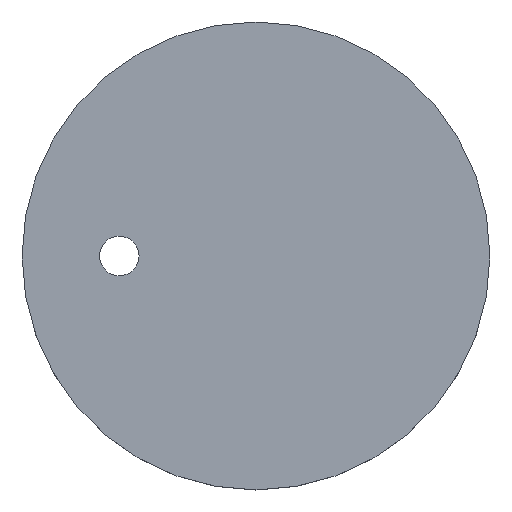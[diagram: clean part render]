
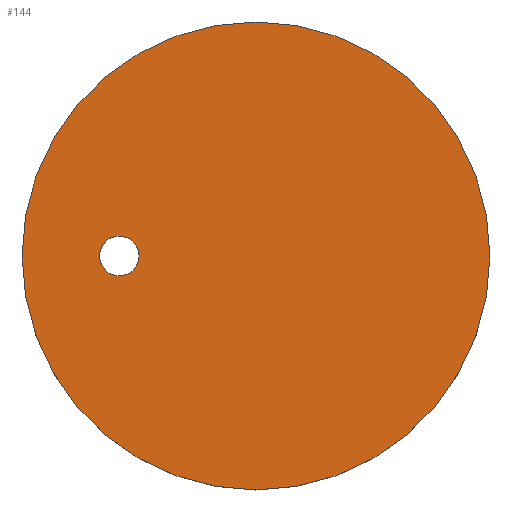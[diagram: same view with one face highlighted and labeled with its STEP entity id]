
A CAD part, top view. The second image highlights one B-rep face of the part: STEP entity #144.
In plain terms, the highlighted planar face has unit normal (0, 0, 1).
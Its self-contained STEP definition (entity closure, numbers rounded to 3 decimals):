
#24 = VERTEX_POINT('',#25);
#25 = CARTESIAN_POINT('',(6.5,0.,-2.9));
#32 = CYLINDRICAL_SURFACE('',#33,6.5);
#33 = AXIS2_PLACEMENT_3D('',#34,#35,#36);
#34 = CARTESIAN_POINT('',(0.,0.,-4.5));
#35 = DIRECTION('',(-0.,-0.,-1.));
#36 = DIRECTION('',(1.,0.,0.));
#51 = EDGE_CURVE('',#24,#24,#52,.T.);
#52 = SURFACE_CURVE('',#53,(#58,#65),.PCURVE_S1.);
#53 = CIRCLE('',#54,6.5);
#54 = AXIS2_PLACEMENT_3D('',#55,#56,#57);
#55 = CARTESIAN_POINT('',(0.,0.,-2.9));
#56 = DIRECTION('',(0.,0.,1.));
#57 = DIRECTION('',(1.,0.,0.));
#58 = PCURVE('',#32,#59);
#59 = DEFINITIONAL_REPRESENTATION('',(#60),#64);
#60 = LINE('',#61,#62);
#61 = CARTESIAN_POINT('',(-0.,-1.6));
#62 = VECTOR('',#63,1.);
#63 = DIRECTION('',(-1.,0.));
#64 = ( GEOMETRIC_REPRESENTATION_CONTEXT(2) 
PARAMETRIC_REPRESENTATION_CONTEXT() REPRESENTATION_CONTEXT('2D SPACE',''
  ) );
#65 = PCURVE('',#66,#71);
#66 = PLANE('',#67);
#67 = AXIS2_PLACEMENT_3D('',#68,#69,#70);
#68 = CARTESIAN_POINT('',(0.,0.,-2.9));
#69 = DIRECTION('',(0.,0.,1.));
#70 = DIRECTION('',(1.,0.,-0.));
#71 = DEFINITIONAL_REPRESENTATION('',(#72),#76);
#72 = CIRCLE('',#73,6.5);
#73 = AXIS2_PLACEMENT_2D('',#74,#75);
#74 = CARTESIAN_POINT('',(0.,0.));
#75 = DIRECTION('',(1.,0.));
#76 = ( GEOMETRIC_REPRESENTATION_CONTEXT(2) 
PARAMETRIC_REPRESENTATION_CONTEXT() REPRESENTATION_CONTEXT('2D SPACE',''
  ) );
#133 = CYLINDRICAL_SURFACE('',#134,0.55);
#134 = AXIS2_PLACEMENT_3D('',#135,#136,#137);
#135 = CARTESIAN_POINT('',(-3.8,0.,-5.5));
#136 = DIRECTION('',(-0.,-0.,-1.));
#137 = DIRECTION('',(1.,0.,0.));
#144 = ADVANCED_FACE('',(#145,#148),#66,.T.);
#145 = FACE_BOUND('',#146,.T.);
#146 = EDGE_LOOP('',(#147));
#147 = ORIENTED_EDGE('',*,*,#51,.T.);
#148 = FACE_BOUND('',#149,.T.);
#149 = EDGE_LOOP('',(#150));
#150 = ORIENTED_EDGE('',*,*,#151,.T.);
#151 = EDGE_CURVE('',#152,#152,#154,.T.);
#152 = VERTEX_POINT('',#153);
#153 = CARTESIAN_POINT('',(-3.25,0.,-2.9));
#154 = SURFACE_CURVE('',#155,(#160,#171),.PCURVE_S1.);
#155 = CIRCLE('',#156,0.55);
#156 = AXIS2_PLACEMENT_3D('',#157,#158,#159);
#157 = CARTESIAN_POINT('',(-3.8,0.,-2.9));
#158 = DIRECTION('',(0.,0.,-1.));
#159 = DIRECTION('',(1.,0.,0.));
#160 = PCURVE('',#66,#161);
#161 = DEFINITIONAL_REPRESENTATION('',(#162),#170);
#162 = ( BOUNDED_CURVE() B_SPLINE_CURVE(2,(#163,#164,#165,#166,#167,#168
,#169),.UNSPECIFIED.,.T.,.F.) B_SPLINE_CURVE_WITH_KNOTS((1,2,2,2,2,1),(
    -2.094,0.,2.094,4.189,6.283,
8.378),.UNSPECIFIED.) CURVE() GEOMETRIC_REPRESENTATION_ITEM() 
RATIONAL_B_SPLINE_CURVE((1.,0.5,1.,0.5,1.,0.5,1.)) REPRESENTATION_ITEM(
  '') );
#163 = CARTESIAN_POINT('',(-3.25,0.));
#164 = CARTESIAN_POINT('',(-3.25,-0.953));
#165 = CARTESIAN_POINT('',(-4.075,-0.476));
#166 = CARTESIAN_POINT('',(-4.9,0.));
#167 = CARTESIAN_POINT('',(-4.075,0.476));
#168 = CARTESIAN_POINT('',(-3.25,0.953));
#169 = CARTESIAN_POINT('',(-3.25,0.));
#170 = ( GEOMETRIC_REPRESENTATION_CONTEXT(2) 
PARAMETRIC_REPRESENTATION_CONTEXT() REPRESENTATION_CONTEXT('2D SPACE',''
  ) );
#171 = PCURVE('',#133,#172);
#172 = DEFINITIONAL_REPRESENTATION('',(#173),#177);
#173 = LINE('',#174,#175);
#174 = CARTESIAN_POINT('',(-6.283,-2.6));
#175 = VECTOR('',#176,1.);
#176 = DIRECTION('',(1.,-0.));
#177 = ( GEOMETRIC_REPRESENTATION_CONTEXT(2) 
PARAMETRIC_REPRESENTATION_CONTEXT() REPRESENTATION_CONTEXT('2D SPACE',''
  ) );
